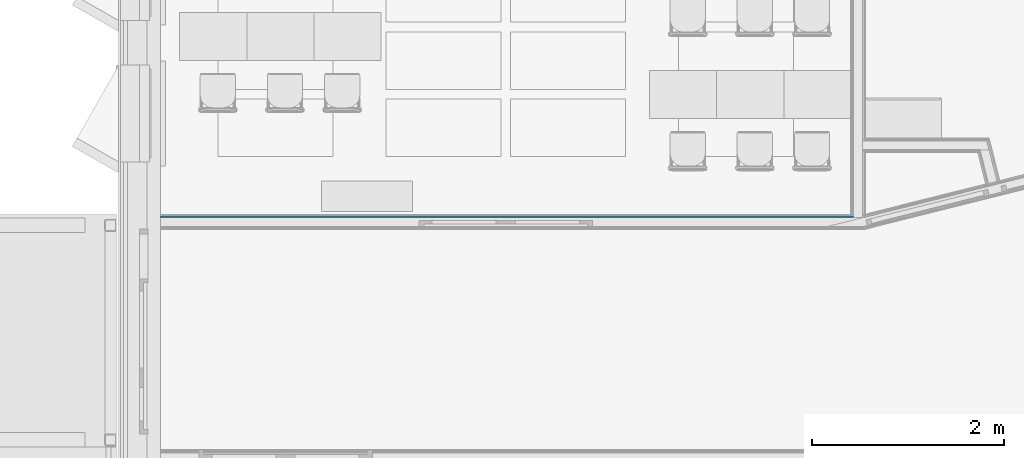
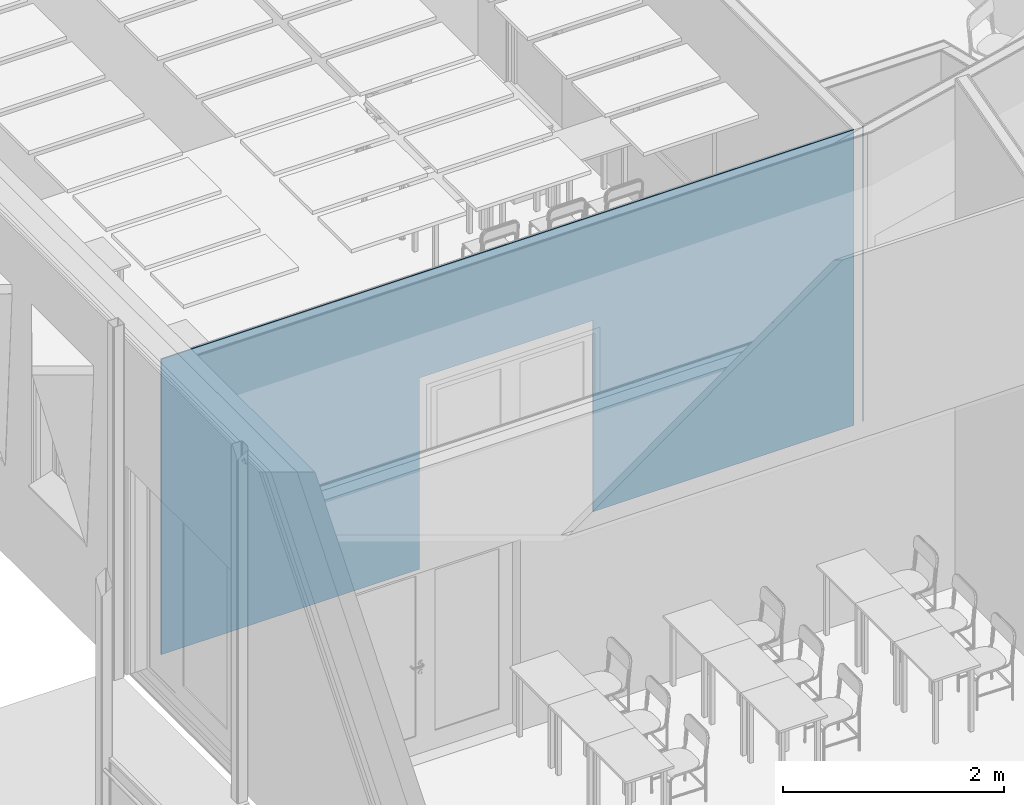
# One storey, part 51 of 153: 1 building element part, 1 opening, 1 element without a shape of its own.
"""IFC2X3 building model written with IfcOpenShell, lengths in millimetres."""

from ifc_helpers import new_model, entity, si_unit, converted_unit, derived_unit, money_unit, direction, frame, origin_with_axes, place, context, subcontext, project, spatial, faceted_brep, material, type_object, element, aggregate, save


model = new_model("IFC2X3")

# Units and contexts
model_context = context("Model", 3, precision=0.01, world=origin_with_axes(), true_north=direction((0.0, 1.0)))
body_context = subcontext(model_context, "Body", "Model", "MODEL_VIEW")
ifc_project = project(units=[si_unit("LENGTHUNIT", "METRE", prefix="MILLI"), si_unit("AREAUNIT", "SQUARE_METRE"), si_unit("VOLUMEUNIT", "CUBIC_METRE"), converted_unit("PLANEANGLEUNIT", "DEGREE", entity("IfcPlaneAngleMeasure", 0.0174532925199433), si_unit("PLANEANGLEUNIT", "RADIAN"), dimensions=[0, 0, 0, 0, 0, 0, 0]), money_unit("EUR"), converted_unit("TIMEUNIT", "Year", entity("IfcTimeMeasure", 31557600.0), si_unit("TIMEUNIT", "SECOND"), dimensions=[0, 0, 1, 0, 0, 0, 0]), si_unit("MASSUNIT", "GRAM", prefix="KILO"), si_unit("THERMODYNAMICTEMPERATUREUNIT", "DEGREE_CELSIUS"), si_unit("LUMINOUSINTENSITYUNIT", "LUMEN"), si_unit("ENERGYUNIT", "JOULE", prefix="MEGA"), derived_unit("THERMALCONDUCTANCEUNIT", [(si_unit("POWERUNIT", "WATT"), 1), (si_unit("LENGTHUNIT", "METRE"), -1), (si_unit("THERMODYNAMICTEMPERATUREUNIT", "KELVIN"), -1)]), derived_unit("SPECIFICHEATCAPACITYUNIT", [(si_unit("ENERGYUNIT", "JOULE"), 1), (si_unit("MASSUNIT", "GRAM", prefix="KILO"), -1), (si_unit("THERMODYNAMICTEMPERATUREUNIT", "KELVIN"), -1)]), derived_unit("MASSDENSITYUNIT", [(si_unit("MASSUNIT", "GRAM", prefix="KILO"), 1), (si_unit("VOLUMEUNIT", "CUBIC_METRE"), -1)])], contexts=[model_context])

# Site, building, storey
site_placement = place(None, frame((0.0, 0.0, 8650.0), z_axis=(0.0, 0.0, 1.0), x_axis=(1.0, 0.0, 0.0)))
site = spatial("IfcSite", under=ifc_project, at=site_placement, Name="43301:001:0844", CompositionType="ELEMENT")
building_placement = place(site_placement, origin_with_axes())
building = spatial("IfcBuilding", under=site, at=building_placement, Name="Kuressaare Ametikooli tuulikute mehaanikute õppekorpus", CompositionType="ELEMENT")
storey_placement = place(building_placement, frame((0.0, 0.0, 4100.0), z_axis=(0.0, 0.0, 1.0), x_axis=(1.0, 0.0, 0.0)))
storey = spatial("IfcBuildingStorey", under=building, at=storey_placement, Name="2.korrus", CompositionType="ELEMENT", Elevation=4100.0)

# Wall, opening, building element part
wall_type = type_object("IfcWallType", Name="SS-2.2 147", PredefinedType="NOTDEFINED")
wall_placement = place(storey_placement, frame((95668.0612605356, 18913.83737729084, 0.0), z_axis=(0.0, 0.0, 1.0), x_axis=(-1.0, 0.0, 0.0)))
wall = element("IfcWall", 1, at=wall_placement, inside=storey, type_object=wall_type, Name="Sisesein")
opening_placement = place(wall_placement, frame((3748.41375937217, 0.0, 0.0), z_axis=(0.0, 0.0, 1.0), x_axis=(1.0, 0.0, 0.0)))
element("IfcOpeningElement", 2, at=opening_placement, cuts=wall, Name="PKU9+9,dB", context=body_context, shape_type="Brep", body=[
    faceted_brep([(-905.0000000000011, -147.9999999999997, 2110.0), (-905.0000000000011, -147.9999999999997, 0.0), (905.0000000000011, -147.9999999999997, 0.0), (905.0000000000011, -147.9999999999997, 2110.0), (-905.0000000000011, 1.000000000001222, 2110.0), (-905.0000000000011, 1.000000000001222, 0.0), (905.0000000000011, 1.000000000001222, 0.0), (905.0000000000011, 1.000000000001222, 2110.0)], [[[0, 1, 2, 3]], [[4, 5, 1, 0]], [[5, 6, 2, 1]], [[6, 7, 3, 2]], [[7, 4, 0, 3]], [[6, 5, 4, 7]]]),
])
ifc_material = material(Name="Kipsplaat")
building_element_part_placement = place(wall_placement, origin_with_axes())
building_element_part = element("IfcBuildingElementPart", 3, at=building_element_part_placement, material=ifc_material, Name="Kipsplaat", context=body_context, shape_type="Brep", body=[
    faceted_brep([(4653.413759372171, -134.0000000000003, 2110.0), (4653.413759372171, -134.0000000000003, 0.0), (7349.834615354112, -134.0000000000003, 0.0), (7349.834615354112, -134.0000000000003, 3259.999999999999), (120.9929033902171, -134.0000000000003, 3259.999999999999), (120.9929033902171, -134.0000000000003, 0.0), (2843.413759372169, -134.0000000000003, 0.0), (2843.413759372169, -134.0000000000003, 2110.0), (4653.413759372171, -121.0000000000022, 2110.0), (4653.413759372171, -121.0000000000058, 0.0), (7349.834615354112, -121.0000000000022, 0.0), (7349.834615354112, -120.9999999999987, 3259.999999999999), (120.9929033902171, -121.0000000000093, 3259.999999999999), (120.9929033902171, -121.0000000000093, 0.0), (2843.413759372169, -121.0000000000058, 0.0), (2843.413759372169, -121.0000000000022, 2110.0)], [[[0, 1, 2, 3, 4, 5, 6, 7]], [[1, 0, 8, 9]], [[1, 9, 10, 2]], [[2, 10, 11, 3]], [[12, 4, 3, 11]], [[5, 4, 12, 13]], [[14, 6, 5, 13]], [[7, 6, 14, 15]], [[0, 7, 15, 8]], [[15, 14, 13, 12, 11, 10, 9, 8]]]),
    faceted_brep([(16.53735781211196, -134.0000000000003, 0.0), (25.9929033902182, -134.0000000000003, 0.0), (25.9929033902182, -134.0000000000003, 3259.999999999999), (16.53735781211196, -134.0000000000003, 3259.999999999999), (25.9929033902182, -131.6300266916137, 0.0), (25.9929033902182, -131.6300266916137, 3259.999999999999)], [[[0, 1, 2, 3]], [[0, 4, 1]], [[4, 5, 2, 1]], [[3, 2, 5]], [[3, 5, 4, 0]]]),
])
aggregate(wall, [building_element_part])

save(model, "model.ifc")
